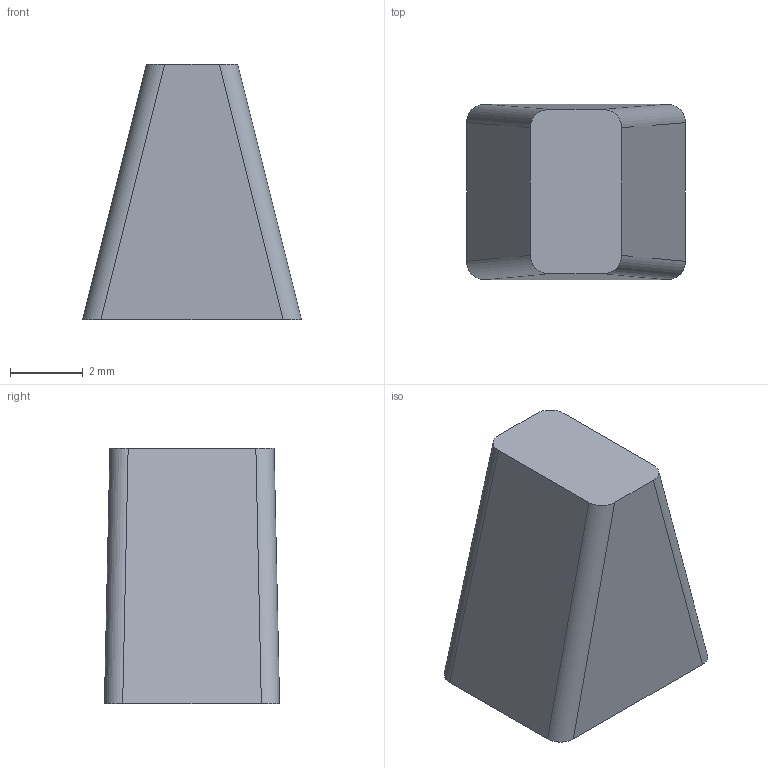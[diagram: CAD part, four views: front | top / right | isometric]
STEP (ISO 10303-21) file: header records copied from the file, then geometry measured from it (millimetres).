
FILE_DESCRIPTION(('Open CASCADE Model'),'2;1');
FILE_NAME('Open CASCADE Shape Model','2026-09-15T13:40:31',('Author'),( 'Open CASCADE'),'Open CASCADE STEP processor 7.7','Open CASCADE 7.7' ,'Unknown');
FILE_SCHEMA(('AUTOMOTIVE_DESIGN { 1 0 10303 214 1 1 1 1 }'));
Length unit declared in the file: millimetre
Products named in the file (1): COMPOUND
Bounding box: 6 x 4.8 x 6.99 mm (x, y, z)
Volume: 137.3 mm3; surface area: 160 mm2
Topology: 1 solids, 1 shells, 10 faces, 24 edges, 16 vertices
Faces by surface type: bspline 8, plane 2
Entity records: 654 total; most frequent: CARTESIAN_POINT 183, DIRECTION 74, ORIENTED_EDGE 48, PCURVE 48, DEFINITIONAL_REPRESENTATION 48, LINE 44, VECTOR 44, EDGE_CURVE 24
